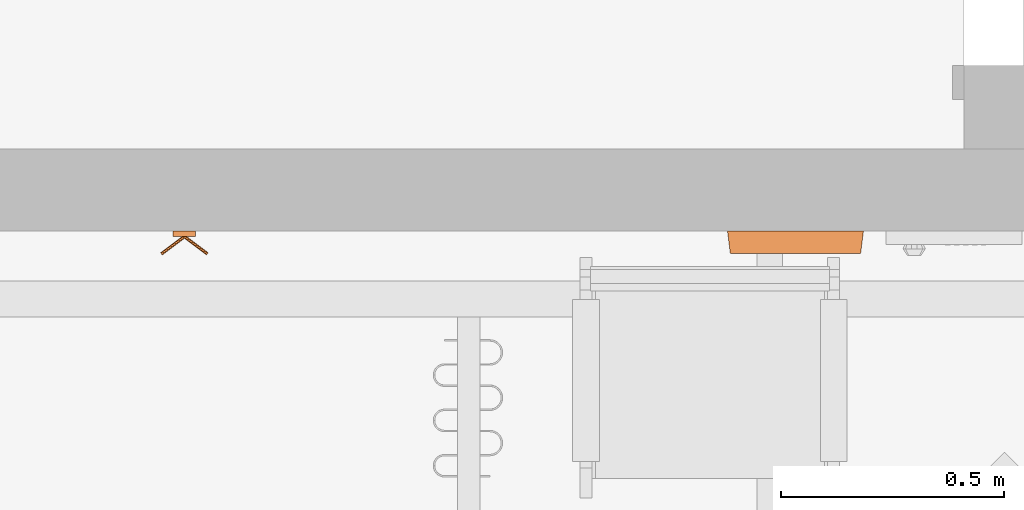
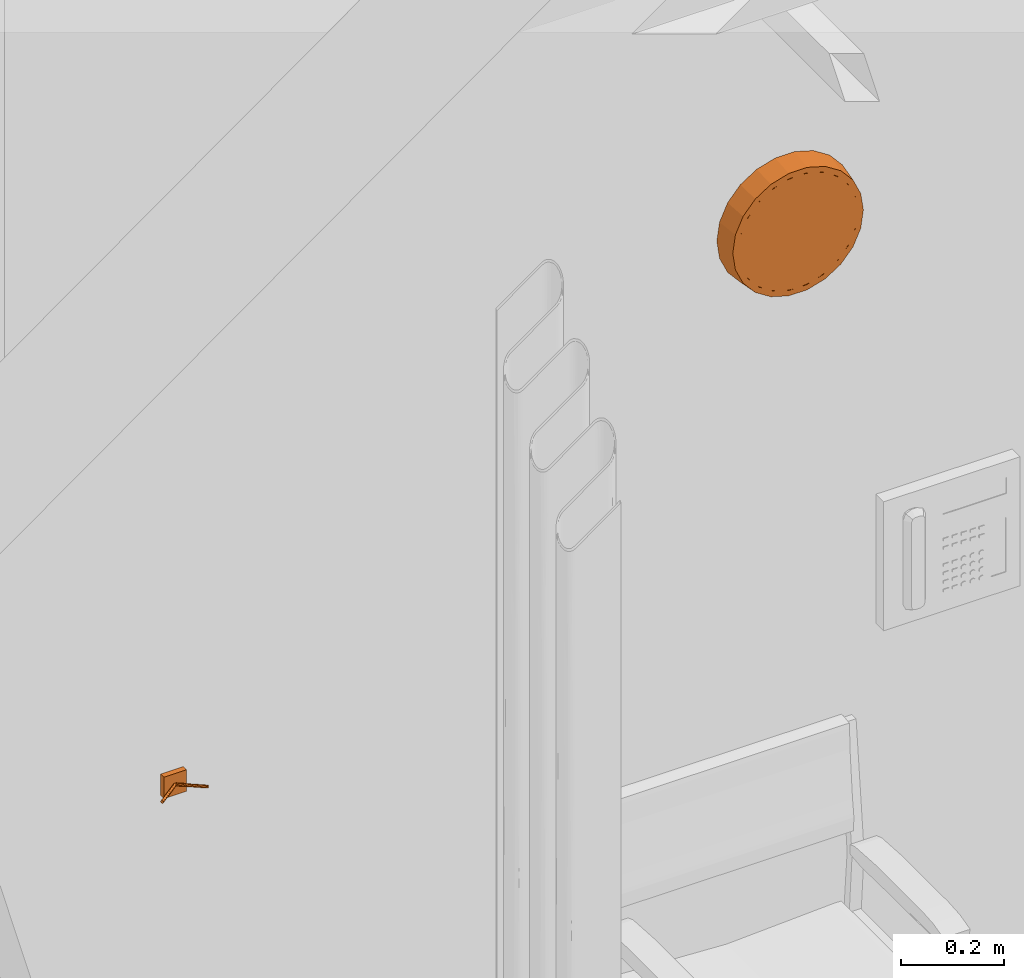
# One storey, part 99 of 142: 2 proxies.
"""IFC2X3 building model written with IfcOpenShell, lengths in feet."""

from ifc_helpers import new_model, entity, si_unit, converted_unit, derived_unit, direction, frame, frame_2d, origin, origin_2d_with_axis, place, context, subcontext, project, spatial, rectangle, circle, extrude, faceted_brep, source, transform, mapped, type_object, type_shapes, element, save


model = new_model("IFC2X3")

# Units and contexts
model_context = context("Model", 3, precision=0.0001, world=origin(), true_north=direction((6.12303176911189e-17, 1.0)))
body_context = subcontext(model_context, "Body", "Model", "MODEL_VIEW")
ifc_project = project(units=[converted_unit("LENGTHUNIT", "FOOT", entity("IfcRatioMeasure", 0.3048), si_unit("LENGTHUNIT", "METRE"), dimensions=[1, 0, 0, 0, 0, 0, 0]), converted_unit("AREAUNIT", "SQUARE FOOT", entity("IfcRatioMeasure", 0.09290304), si_unit("AREAUNIT", "SQUARE_METRE"), dimensions=[2, 0, 0, 0, 0, 0, 0]), converted_unit("VOLUMEUNIT", "CUBIC FOOT", entity("IfcRatioMeasure", 0.028316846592), si_unit("VOLUMEUNIT", "CUBIC_METRE"), dimensions=[3, 0, 0, 0, 0, 0, 0]), converted_unit("PLANEANGLEUNIT", "DEGREE", entity("IfcRatioMeasure", 0.0174532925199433), si_unit("PLANEANGLEUNIT", "RADIAN"), dimensions=[0, 0, 0, 0, 0, 0, 0]), si_unit("MASSUNIT", "GRAM", prefix="KILO"), derived_unit("MASSDENSITYUNIT", [(si_unit("MASSUNIT", "GRAM", prefix="KILO"), 1), (si_unit("LENGTHUNIT", "METRE"), -3)]), si_unit("TIMEUNIT", "SECOND"), si_unit("FREQUENCYUNIT", "HERTZ"), si_unit("THERMODYNAMICTEMPERATUREUNIT", "DEGREE_CELSIUS"), derived_unit("THERMALTRANSMITTANCEUNIT", [(si_unit("MASSUNIT", "GRAM", prefix="KILO"), 1), (si_unit("THERMODYNAMICTEMPERATUREUNIT", "KELVIN"), -1), (si_unit("TIMEUNIT", "SECOND"), -3)]), derived_unit("VOLUMETRICFLOWRATEUNIT", [(si_unit("LENGTHUNIT", "METRE"), 3), (si_unit("TIMEUNIT", "SECOND"), -1)]), si_unit("ELECTRICCURRENTUNIT", "AMPERE"), si_unit("ELECTRICVOLTAGEUNIT", "VOLT"), si_unit("POWERUNIT", "WATT"), si_unit("FORCEUNIT", "NEWTON"), si_unit("ILLUMINANCEUNIT", "LUX"), si_unit("LUMINOUSFLUXUNIT", "LUMEN"), si_unit("LUMINOUSINTENSITYUNIT", "CANDELA"), derived_unit("USERDEFINED", [(si_unit("MASSUNIT", "GRAM", prefix="KILO"), -1), (si_unit("LENGTHUNIT", "METRE"), -2), (si_unit("TIMEUNIT", "SECOND"), 3), (si_unit("LUMINOUSFLUXUNIT", "LUMEN"), 1)]), derived_unit("LINEARVELOCITYUNIT", [(si_unit("LENGTHUNIT", "METRE"), 1), (si_unit("TIMEUNIT", "SECOND"), -1)]), si_unit("PRESSUREUNIT", "PASCAL"), derived_unit("USERDEFINED", [(si_unit("LENGTHUNIT", "METRE"), -2), (si_unit("MASSUNIT", "GRAM", prefix="KILO"), 1), (si_unit("TIMEUNIT", "SECOND"), -2)])], contexts=[model_context])

# Site, building, storey, space
site_placement = place(None, origin())
site = spatial("IfcSite", under=ifc_project, at=site_placement, Name="Default", CompositionType="ELEMENT")
building_placement = place(site_placement, origin())
building = spatial("IfcBuilding", under=site, at=building_placement, Name="OUTPATIENT / PACT CLINIC (Ch. 265)", CompositionType="ELEMENT")
storey_placement = place(building_placement, origin())
storey = spatial("IfcBuildingStorey", under=building, at=storey_placement, Name="LEVEL 1", CompositionType="ELEMENT", Elevation=0.0)
space_placement = place(storey_placement, origin())
space = spatial("IfcSpace", under=storey, at=space_placement, Name="EXPA01", CompositionType="ELEMENT", InteriorOrExteriorSpace="INTERNAL")

# Proxies
building_element_proxy_type_1 = type_object("IfcBuildingElementProxyType", Name="F3200 - Clock, Battery, 12in Dia", PredefinedType="NOTDEFINED")
shared_shape_1 = source(origin(), body_context, "Body", "Brep", [
    faceted_brep([(0.0527623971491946, -0.166666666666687, -0.0087350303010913), (0.143371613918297, -0.166666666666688, 0.0607918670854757), (0.212898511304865, -0.16666666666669, 0.151401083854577), (0.256604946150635, -0.166666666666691, 0.256917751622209), (0.271512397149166, -0.166666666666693, 0.370151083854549), (0.256604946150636, -0.166666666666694, 0.483384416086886), (0.212898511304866, -0.166666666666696, 0.588901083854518), (0.143371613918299, -0.166666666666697, 0.67951030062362), (0.052762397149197, -0.166666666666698, 0.749037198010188), (-0.0527542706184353, -0.166666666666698, 0.792743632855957), (-0.165987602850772, -0.166666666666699, 0.807651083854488), (-0.279220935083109, -0.166666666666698, 0.792743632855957), (-0.384737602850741, -0.166666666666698, 0.749037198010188), (-0.475346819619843, -0.166666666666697, 0.679510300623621), (-0.544873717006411, -0.166666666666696, 0.588901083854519), (-0.588580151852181, -0.166666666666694, 0.483384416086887), (-0.603487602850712, -0.166666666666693, 0.37015108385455), (-0.588580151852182, -0.166666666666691, 0.256917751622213), (-0.544873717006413, -0.16666666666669, 0.151401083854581), (-0.475346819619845, -0.166666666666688, 0.0607918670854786), (-0.384737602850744, -0.166666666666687, -0.0087350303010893), (-0.279220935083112, -0.166666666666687, -0.052441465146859), (-0.165987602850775, -0.166666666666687, -0.0673489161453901), (-0.0527542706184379, -0.166666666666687, -0.0524414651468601), (0.256604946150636, -0.145833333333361, 0.483384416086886), (0.271512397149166, -0.145833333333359, 0.370151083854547), (0.256604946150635, -0.145833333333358, 0.256917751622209), (0.212898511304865, -0.145833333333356, 0.151401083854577), (0.143371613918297, -0.145833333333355, 0.0607918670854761), (0.0527623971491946, -0.145833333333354, -0.00873503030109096), (-0.0527542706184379, -0.145833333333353, -0.0524414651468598), (-0.165987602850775, -0.145833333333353, -0.0673489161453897), (-0.279220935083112, -0.145833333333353, -0.0524414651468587), (-0.384737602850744, -0.145833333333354, -0.00873503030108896), (-0.475346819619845, -0.145833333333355, 0.060791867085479), (-0.544873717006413, -0.145833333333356, 0.151401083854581), (-0.588580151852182, -0.145833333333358, 0.256917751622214), (-0.603487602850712, -0.145833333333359, 0.37015108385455), (-0.588580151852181, -0.145833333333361, 0.483384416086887), (-0.544873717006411, -0.145833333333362, 0.588901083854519), (-0.475346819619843, -0.145833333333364, 0.679510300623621), (-0.384737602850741, -0.145833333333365, 0.749037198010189), (-0.279220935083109, -0.145833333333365, 0.792743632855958), (-0.165987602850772, -0.145833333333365, 0.807651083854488), (-0.0527542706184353, -0.145833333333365, 0.792743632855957), (0.052762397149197, -0.145833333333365, 0.749037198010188), (0.143371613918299, -0.145833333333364, 0.67951030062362), (0.212898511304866, -0.145833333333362, 0.588901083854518)], [[[0, 1, 2, 3, 4, 5, 6, 7, 8, 9, 10, 11, 12, 13, 14, 15, 16, 17, 18, 19, 20, 21, 22, 23]], [[24, 25, 26, 27, 28, 29, 30, 31, 32, 33, 34, 35, 36, 37, 38, 39, 40, 41, 42, 43, 44, 45, 46, 47]], [[36, 17, 16, 37]], [[35, 18, 17, 36]], [[20, 19, 34, 33]], [[35, 34, 19, 18]], [[21, 20, 33, 32]], [[22, 21, 32, 31]], [[30, 23, 22, 31]], [[29, 0, 23, 30]], [[2, 1, 28, 27]], [[29, 28, 1, 0]], [[3, 2, 27, 26]], [[4, 3, 26, 25]], [[24, 5, 4, 25]], [[47, 6, 5, 24]], [[8, 7, 46, 45]], [[47, 46, 7, 6]], [[9, 8, 45, 44]], [[10, 9, 44, 43]], [[11, 10, 43, 42]], [[12, 11, 42, 41]], [[14, 39, 38, 15]], [[15, 38, 37, 16]], [[12, 41, 40, 13]], [[40, 39, 14, 13]]]),
    faceted_brep([(-0.493417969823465, 0.0, -0.00772370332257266), (-0.586614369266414, 0.0, 0.0998306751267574), (-0.165987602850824, 0.0, 0.370151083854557), (-0.373695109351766, 0.0, -0.0846649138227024), (-0.645734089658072, 0.0, 0.229284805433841), (-0.665987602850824, 0.0, 0.370151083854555), (-0.645734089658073, 0.0, 0.51101736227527), (-0.586614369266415, 0.0, 0.640471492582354), (-0.493417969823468, 0.0, 0.748025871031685), (-0.373695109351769, 0.0, 0.824967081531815), (-0.237145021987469, 0.0, 0.865061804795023), (-0.0948301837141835, 0.0, 0.865061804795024), (0.0417199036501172, 0.0, 0.824967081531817), (0.161442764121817, 0.0, 0.748025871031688), (0.254639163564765, 0.0, 0.640471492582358), (0.313758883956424, 0.0, 0.511017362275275), (0.334012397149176, 0.0, 0.370151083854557), (0.313758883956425, 0.0, 0.229284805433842), (0.254639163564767, 0.0, 0.0998306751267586), (0.161442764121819, 0.0, -0.00772370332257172), (0.0417199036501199, 0.0, -0.0846649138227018), (-0.0948301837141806, 0.0, -0.124759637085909), (-0.237145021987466, 0.0, -0.124759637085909), (-0.165987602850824, -0.145833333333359, 0.370151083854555), (-0.534036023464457, -0.145833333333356, 0.133620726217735), (-0.452489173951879, -0.145833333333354, 0.0395106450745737), (-0.585765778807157, -0.145833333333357, 0.246893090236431), (-0.347731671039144, -0.145833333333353, -0.0278129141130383), (-0.228250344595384, -0.145833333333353, -0.0628957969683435), (-0.603487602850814, -0.145833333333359, 0.370151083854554), (-0.103724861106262, -0.145833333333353, -0.0628957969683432), (0.0157564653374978, -0.145833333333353, -0.0278129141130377), (0.120513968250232, -0.145833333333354, 0.0395106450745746), (0.20206081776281, -0.145833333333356, 0.133620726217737), (0.253790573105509, -0.145833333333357, 0.246893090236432), (0.271512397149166, -0.145833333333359, 0.370151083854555), (-0.585765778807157, -0.145833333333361, 0.493409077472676), (-0.534036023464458, -0.145833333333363, 0.606681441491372), (-0.452489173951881, -0.145833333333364, 0.700791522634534), (-0.347731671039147, -0.145833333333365, 0.768115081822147), (-0.228250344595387, -0.145833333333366, 0.803197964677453), (0.253790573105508, -0.145833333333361, 0.49340907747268), (0.202060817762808, -0.145833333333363, 0.606681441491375), (0.12051396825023, -0.145833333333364, 0.700791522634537), (0.0157564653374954, -0.145833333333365, 0.768115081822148), (-0.103724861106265, -0.145833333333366, 0.803197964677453), (0.253790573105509, -0.166666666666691, 0.246893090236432), (0.271512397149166, -0.166666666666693, 0.370151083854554), (0.20206081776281, -0.166666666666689, 0.133620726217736), (-0.103724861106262, -0.166666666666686, -0.0628957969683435), (0.0157564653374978, -0.166666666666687, -0.0278129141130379), (0.120513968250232, -0.166666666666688, 0.0395106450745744), (-0.228250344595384, -0.166666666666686, -0.0628957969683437), (-0.452489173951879, -0.166666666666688, 0.0395106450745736), (-0.347731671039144, -0.166666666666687, -0.0278129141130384), (-0.603487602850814, -0.166666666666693, 0.370151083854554), (-0.585765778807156, -0.166666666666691, 0.246893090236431), (-0.534036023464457, -0.166666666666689, 0.133620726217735), (-0.585765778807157, -0.166666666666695, 0.493409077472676), (-0.534036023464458, -0.166666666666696, 0.606681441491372), (-0.347731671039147, -0.166666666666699, 0.768115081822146), (-0.452489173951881, -0.166666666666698, 0.700791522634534), (-0.228250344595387, -0.166666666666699, 0.803197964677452), (-0.103724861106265, -0.166666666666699, 0.803197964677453), (0.0157564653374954, -0.166666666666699, 0.768115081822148), (0.12051396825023, -0.166666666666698, 0.700791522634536), (0.253790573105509, -0.166666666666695, 0.493409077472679), (0.202060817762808, -0.166666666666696, 0.606681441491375), (-0.62574465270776, -0.166666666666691, 0.235154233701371), (-0.64515426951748, -0.166666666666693, 0.370151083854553), (-0.569088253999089, -0.166666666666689, 0.111094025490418), (-0.479775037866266, -0.166666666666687, 0.00802107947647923), (-0.365040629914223, -0.166666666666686, -0.0657142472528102), (-0.234180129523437, -0.166666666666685, -0.104138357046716), (-0.0977950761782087, -0.166666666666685, -0.104138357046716), (0.0330654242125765, -0.166666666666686, -0.0657142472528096), (0.147799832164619, -0.166666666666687, 0.00802107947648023), (0.237113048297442, -0.166666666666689, 0.11109402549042), (0.293769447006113, -0.166666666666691, 0.235154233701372), (0.313179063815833, -0.166666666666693, 0.370151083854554), (0.293769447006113, -0.166666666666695, 0.50514793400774), (0.237113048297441, -0.166666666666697, 0.629208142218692), (0.147799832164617, -0.166666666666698, 0.732281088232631), (0.0330654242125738, -0.1666666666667, 0.80601641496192), (-0.0977950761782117, -0.1666666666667, 0.844440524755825), (-0.23418012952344, -0.1666666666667, 0.844440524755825), (-0.365040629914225, -0.1666666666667, 0.806016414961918), (-0.479775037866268, -0.166666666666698, 0.732281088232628), (-0.569088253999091, -0.166666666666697, 0.629208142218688), (-0.625744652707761, -0.166666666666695, 0.505147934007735)], [[[0, 1, 2]], [[0, 2, 3]], [[4, 2, 1]], [[2, 4, 5]], [[5, 6, 2]], [[2, 6, 7]], [[2, 7, 8]], [[2, 8, 9]], [[9, 10, 2]], [[11, 2, 10]], [[2, 11, 12]], [[2, 12, 13]], [[14, 2, 13]], [[2, 14, 15]], [[15, 16, 2]], [[2, 16, 17]], [[2, 17, 18]], [[18, 19, 2]], [[19, 20, 2]], [[21, 2, 20]], [[2, 21, 22]], [[22, 3, 2]], [[23, 24, 25]], [[24, 23, 26]], [[27, 23, 25]], [[23, 27, 28]], [[29, 26, 23]], [[28, 30, 23]], [[31, 23, 30]], [[23, 31, 32]], [[23, 32, 33]], [[33, 34, 23]], [[34, 35, 23]], [[23, 36, 29]], [[37, 36, 23]], [[38, 37, 23]], [[39, 38, 23]], [[23, 40, 39]], [[23, 35, 41]], [[41, 42, 23]], [[43, 23, 42]], [[43, 44, 23]], [[44, 45, 23]], [[40, 23, 45]], [[46, 47, 35, 34]], [[46, 34, 33, 48]], [[31, 30, 49, 50]], [[32, 31, 50, 51]], [[51, 48, 33, 32]], [[30, 28, 52, 49]], [[27, 25, 53, 54]], [[28, 27, 54, 52]], [[29, 55, 56, 26]], [[26, 56, 57, 24]], [[24, 57, 53, 25]], [[55, 29, 36, 58]], [[58, 36, 37, 59]], [[60, 61, 38, 39]], [[59, 37, 38, 61]], [[39, 40, 62, 60]], [[40, 45, 63, 62]], [[64, 63, 45, 44]], [[64, 44, 43, 65]], [[41, 35, 47, 66]], [[42, 41, 66, 67]], [[67, 65, 43, 42]], [[68, 55, 69]], [[56, 55, 68]], [[68, 70, 56]], [[70, 57, 56]], [[71, 57, 70]], [[57, 71, 53]], [[72, 53, 71]], [[54, 53, 72]], [[72, 73, 54]], [[73, 52, 54]], [[49, 52, 73]], [[73, 74, 49]], [[74, 50, 49]], [[75, 50, 74]], [[50, 75, 51]], [[76, 51, 75]], [[48, 51, 76]], [[76, 77, 48]], [[77, 46, 48]], [[78, 46, 77]], [[46, 78, 47]], [[78, 79, 47]], [[79, 80, 47]], [[66, 47, 80]], [[80, 81, 66]], [[66, 81, 67]], [[82, 67, 81]], [[67, 82, 65]], [[65, 82, 83]], [[64, 65, 83]], [[83, 84, 64]], [[64, 84, 63]], [[85, 63, 84]], [[63, 85, 62]], [[62, 85, 60]], [[86, 60, 85]], [[60, 86, 61]], [[61, 86, 87]], [[59, 61, 87]], [[87, 88, 59]], [[59, 88, 58]], [[89, 58, 88]], [[55, 89, 69]], [[58, 89, 55]], [[78, 17, 16, 79]], [[77, 18, 17, 78]], [[19, 76, 75, 20]], [[77, 76, 19, 18]], [[20, 75, 74, 21]], [[74, 73, 22, 21]], [[22, 73, 72, 3]], [[0, 3, 72, 71]], [[4, 1, 70, 68]], [[70, 1, 0, 71]], [[5, 4, 68, 69]], [[89, 6, 5, 69]], [[88, 7, 6, 89]], [[8, 87, 86, 9]], [[88, 87, 8, 7]], [[9, 86, 85, 10]], [[85, 84, 11, 10]], [[83, 12, 11, 84]], [[82, 13, 12, 83]], [[14, 81, 80, 15]], [[82, 81, 14, 13]], [[15, 80, 79, 16]]]),
])
type_shapes(building_element_proxy_type_1, [shared_shape_1])
proxy_1_placement = place(space_placement, frame((397.489351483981, -910.837185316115, 6.50000000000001)))
element("IfcBuildingElementProxy", 1, at=proxy_1_placement, inside=space, type_object=building_element_proxy_type_1, Name="F3200 - Clock, Battery, 12in Dia:F3200 - Clock, Battery, 12in Dia", ObjectType="F3200 - Clock, Battery, 12in Dia", context=body_context, shape_type="MappedRepresentation", body=[
    mapped(shared_shape_1, transform((0.0, 0.0, 0.0), scale=1.0)),
])
building_element_proxy_type_2 = type_object("IfcBuildingElementProxyType", Name="A5145 - Hook, Garment, Double", PredefinedType="NOTDEFINED")
shared_shape_2 = source(origin(), body_context, "Body", "SweptSolid", [
    extrude(circle(Radius=0.0105952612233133, at=frame_2d((-1.64551454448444e-31, -4.16333634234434e-17), x_axis=(1.0, 0.0))), frame((-0.169086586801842, -0.168481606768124, 0.0833333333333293), z_axis=(0.799999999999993, 0.60000000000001, 0.0), x_axis=(0.60000000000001, -0.799999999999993, 0.0)), (0.0, 0.0, 1.0), 0.211358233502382),
    extrude(circle(Radius=0.0105952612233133, at=frame_2d((5.2041704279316e-19, 2.77555756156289e-17), x_axis=(1.0, 0.0))), frame((0.0, -0.0416666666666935, 0.083333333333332), z_axis=(0.799999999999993, -0.60000000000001, 0.0), x_axis=(-0.60000000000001, -0.799999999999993, 0.0)), (0.0, 0.0, 1.0), 0.211358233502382),
    extrude(rectangle(XDim=0.0416666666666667, YDim=0.166666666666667, at=origin_2d_with_axis()), frame((0.0, -0.0208333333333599, 0.0), z_axis=(0.0, 0.0, 1.0), x_axis=(0.0, 1.0, 0.0)), (0.0, 0.0, 1.0), 0.166666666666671),
])
type_shapes(building_element_proxy_type_2, [shared_shape_2])
proxy_2_placement = place(space_placement, frame((392.827893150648, -910.837185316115, 4.0)))
element("IfcBuildingElementProxy", 2, at=proxy_2_placement, inside=space, type_object=building_element_proxy_type_2, Name="A5145 - Hook, Garment, Double:A5145 - Hook, Garment, Double", ObjectType="A5145 - Hook, Garment, Double", context=body_context, shape_type="MappedRepresentation", body=[
    mapped(shared_shape_2, transform((0.0, 0.0, 0.0), scale=1.0)),
])

save(model, "model.ifc")
